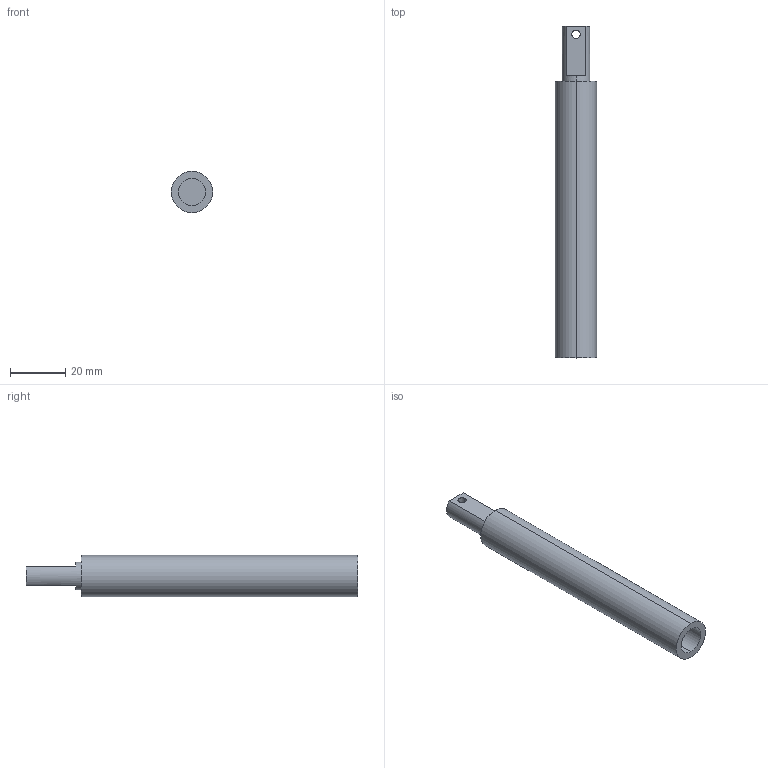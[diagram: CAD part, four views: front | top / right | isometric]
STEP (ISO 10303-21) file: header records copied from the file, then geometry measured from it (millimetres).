
FILE_DESCRIPTION (( 'STEP AP203' ), '1' );
FILE_NAME ('Podstawa-P_Domyœlna_sldprt.STEP', '2024-04-08T11:03:06', ( '' ), ( '' ), 'SwSTEP 2.0', 'SolidWorks 2024', '' );
FILE_SCHEMA (( 'CONFIG_CONTROL_DESIGN' ));
Length unit declared in the file: millimetre
Products named in the file (1): Podstawa-P_Domyślna_sldprt
Bounding box: 15 x 120 x 15 mm (x, y, z)
Volume: 14214.4 mm3; surface area: 7601.7 mm2
Topology: 1 solids, 1 shells, 16 faces, 36 edges, 24 vertices
Faces by surface type: cylinder 8, plane 8
Entity records: 541 total; most frequent: DIRECTION 90, CARTESIAN_POINT 77, ORIENTED_EDGE 72, AXIS2_PLACEMENT_3D 37, EDGE_CURVE 36, VERTEX_POINT 24, CIRCLE 20, EDGE_LOOP 20
